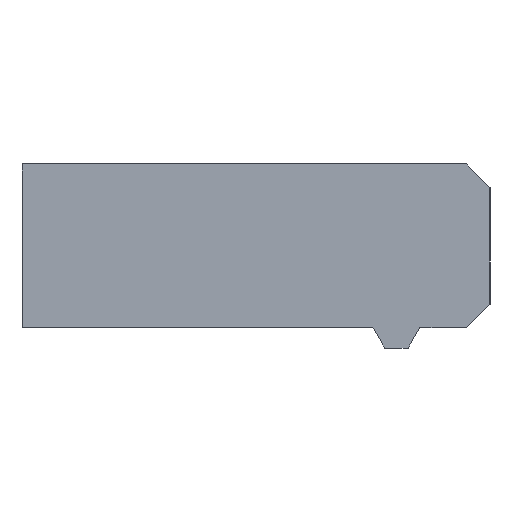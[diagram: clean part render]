
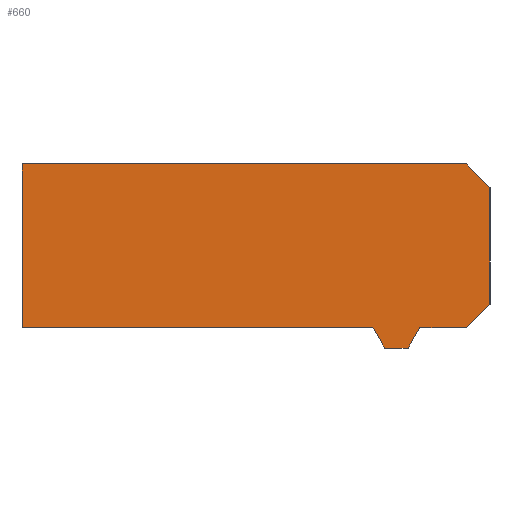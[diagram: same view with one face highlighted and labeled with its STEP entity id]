
A CAD part, left-side view. The second image highlights one B-rep face of the part: STEP entity #660.
In plain terms, the highlighted planar face has unit normal (-1, 0, 0).
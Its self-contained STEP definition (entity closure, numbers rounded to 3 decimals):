
#300 = VERTEX_POINT( '', #773 );
#374 = EDGE_CURVE( '', #424, #526, #857, .T. );
#390 = VERTEX_POINT( '', #874 );
#422 = EDGE_CURVE( '', #682, #642, #913, .T. );
#424 = VERTEX_POINT( '', #915 );
#476 = EDGE_CURVE( '', #390, #576, #974, .T. );
#490 = EDGE_CURVE( '', #300, #682, #989, .T. );
#526 = VERTEX_POINT( '', #1029 );
#554 = EDGE_CURVE( '', #642, #424, #1059, .T. );
#576 = VERTEX_POINT( '', #1084 );
#586 = EDGE_CURVE( '', #588, #390, #1094, .T. );
#588 = VERTEX_POINT( '', #1096 );
#608 = EDGE_CURVE( '', #526, #588, #1116, .T. );
#642 = VERTEX_POINT( '', #1155 );
#660 = ADVANCED_FACE( '', ( #1175 ), #1176, .F. );
#674 = EDGE_CURVE( '', #576, #300, #1192, .T. );
#682 = VERTEX_POINT( '', #1200 );
#773 = CARTESIAN_POINT( '', ( -118., -15., -3.5 ) );
#857 = LINE( '', #1408, #1409 );
#874 = CARTESIAN_POINT( '', ( -118., -19., -3.5 ) );
#913 = LINE( '', #1476, #1477 );
#915 = CARTESIAN_POINT( '', ( -118., -19., 3.5 ) );
#974 = LINE( '', #1551, #1552 );
#989 = LINE( '', #1575, #1576 );
#1029 = CARTESIAN_POINT( '', ( -118., -20., 2.5 ) );
#1059 = LINE( '', #1671, #1672 );
#1084 = CARTESIAN_POINT( '', ( -118., -17., -3.5 ) );
#1094 = LINE( '', #1719, #1720 );
#1096 = CARTESIAN_POINT( '', ( -118., -20., -2.5 ) );
#1116 = LINE( '', #1756, #1757 );
#1155 = CARTESIAN_POINT( '', ( -118., 0., 3.5 ) );
#1175 = FACE_OUTER_BOUND( '', #1825, .T. );
#1176 = PLANE( '', #1826 );
#1192 = CIRCLE( '', #1847, 1. );
#1200 = CARTESIAN_POINT( '', ( -118., 0., -3.5 ) );
#1408 = CARTESIAN_POINT( '', ( -118., -19., 3.5 ) );
#1409 = VECTOR( '', #2056, 1. );
#1476 = CARTESIAN_POINT( '', ( -118., 0., -3.5 ) );
#1477 = VECTOR( '', #2132, 1. );
#1551 = CARTESIAN_POINT( '', ( -118., -19., -3.5 ) );
#1552 = VECTOR( '', #2210, 1. );
#1575 = CARTESIAN_POINT( '', ( -118., -15., -3.5 ) );
#1576 = VECTOR( '', #2225, 1. );
#1671 = CARTESIAN_POINT( '', ( -118., 0., 3.5 ) );
#1672 = VECTOR( '', #2301, 1. );
#1719 = CARTESIAN_POINT( '', ( -118., -20., -2.5 ) );
#1720 = VECTOR( '', #2340, 1. );
#1756 = CARTESIAN_POINT( '', ( -118., -20., 2.5 ) );
#1757 = VECTOR( '', #2355, 1. );
#1825 = EDGE_LOOP( '', ( #2422, #2423, #2424, #2425, #2426, #2427, #2428, #2429 ) );
#1826 = AXIS2_PLACEMENT_3D( '', #2430, #2431, #2432 );
#1847 = AXIS2_PLACEMENT_3D( '', #2461, #2462, #2463 );
#2056 = DIRECTION( '', ( 0., -0.707, -0.707 ) );
#2132 = DIRECTION( '', ( 0., 0., 1. ) );
#2210 = DIRECTION( '', ( 0., 1., 0. ) );
#2225 = DIRECTION( '', ( 0., 1., 0. ) );
#2301 = DIRECTION( '', ( 0., -1., 0. ) );
#2340 = DIRECTION( '', ( 0., 0.707, -0.707 ) );
#2355 = DIRECTION( '', ( 0., 0., -1. ) );
#2422 = ORIENTED_EDGE( '', *, *, #608, .F. );
#2423 = ORIENTED_EDGE( '', *, *, #374, .F. );
#2424 = ORIENTED_EDGE( '', *, *, #554, .F. );
#2425 = ORIENTED_EDGE( '', *, *, #422, .F. );
#2426 = ORIENTED_EDGE( '', *, *, #490, .F. );
#2427 = ORIENTED_EDGE( '', *, *, #674, .F. );
#2428 = ORIENTED_EDGE( '', *, *, #476, .F. );
#2429 = ORIENTED_EDGE( '', *, *, #586, .F. );
#2430 = CARTESIAN_POINT( '', ( -118., 0., 0. ) );
#2431 = DIRECTION( '', ( 1., 0., 0. ) );
#2432 = DIRECTION( '', ( 0., 0., -1. ) );
#2461 = CARTESIAN_POINT( '', ( -118., -16., -3.5 ) );
#2462 = DIRECTION( '', ( 1., 0., 0. ) );
#2463 = DIRECTION( '', ( 0., -1., 0. ) );
